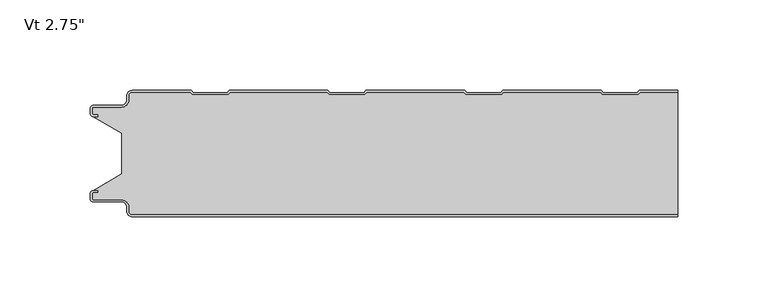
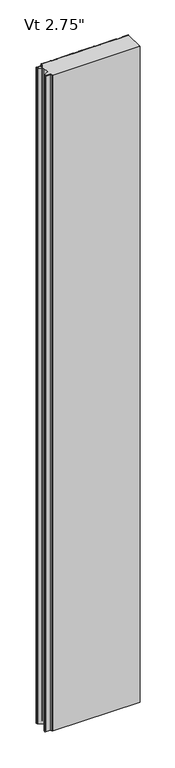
"""IFC4 building model written with IfcOpenShell, lengths in millimetres: plate geometry."""

from ifc_helpers import new_model, si_unit, frame, origin, place, context, project, spatial, polyline, circle_curve, source, transform, mapped, element, save
from ifc_brep_helpers import plane_surface, cylinder_surface, revolved_surface, advanced_brep


def plate_4dfbf4fa(model_context):
    return source(origin(), model_context, "Body", "AdvancedBrep", [
        advanced_brep(
        [(133.0522163, -1.0, 2400.0), (153.7374998, -1.0, 2400.0), (153.7374998, 0.0, 2400.0), (132.6097769, 0.0, 2400.0), (131.5372521, -1.1911595, 2400.0), (112.6391361, -1.1911595, 2400.0), (111.5666112, 0.0, 2400.0), (56.9871567, 0.0, 2400.0), (55.9146318, -1.1911595, 2400.0), (37.0165158, -1.1911595, 2400.0), (35.943991, 0.0, 2400.0), (-18.6354636, 0.0, 2400.0), (-19.7079884, -1.1911595, 2400.0), (-38.6061045, -1.1911595, 2400.0), (-39.6786293, 0.0, 2400.0), (-94.2580838, 0.0, 2400.0), (-95.3306087, -1.1911595, 2400.0), (-114.2287247, -1.1911595, 2400.0), (-115.3012496, 0.0, 2400.0), (-147.9102806, 0.0, 2400.0), (-150.8875472, -2.9772904, 2400.0), (-150.8875472, -5.2691742, 2400.0), (-153.8648158, -8.2464427, 2400.0), (-169.4612418, -8.2464427, 2400.0), (-171.0491183, -9.8343193, 2400.0), (-171.0491183, -12.905868, 2400.0), (-169.4612418, -14.4937445, 2400.0), (-167.1062063, -14.4937445, 2400.0), (-167.1062063, -13.4937445, 2400.0), (-169.4612418, -13.4937445, 2400.0), (-170.0491183, -12.905868, 2400.0), (-170.0491183, -9.8343193, 2400.0), (-169.4612418, -9.2464427, 2400.0), (-153.8648158, -9.2464427, 2400.0), (-149.8875472, -5.2691742, 2400.0), (-149.8875472, -2.9772904, 2400.0), (-147.9102799, -1.0000218, 2400.0), (-115.7436889, -1.0, 2400.0), (-114.671164, -2.1911595, 2400.0), (-94.8881694, -2.1911595, 2400.0), (-93.8156445, -1.0, 2400.0), (-40.1210686, -1.0, 2400.0), (-39.0485438, -2.1911595, 2400.0), (-19.2655491, -2.1911595, 2400.0), (-18.1930243, -1.0, 2400.0), (35.5015516, -1.0, 2400.0), (36.5740765, -2.1911595, 2400.0), (56.3570712, -2.1911595, 2400.0), (57.429596, -1.0, 2400.0), (111.1241719, -1.0, 2400.0), (112.1966967, -2.1911595, 2400.0), (131.9796914, -2.1911595, 2400.0), (132.6097769, 0.0, 0.0), (153.7374998, 0.0, 0.0), (153.7374998, -1.0, 0.0), (133.0522163, -1.0, 0.0), (131.9796914, -2.1911595, 0.0), (112.1966967, -2.1911595, 0.0), (111.1241719, -1.0, 0.0), (57.429596, -1.0, 0.0), (56.3570712, -2.1911595, 0.0), (36.5740765, -2.1911595, 0.0), (35.5015516, -1.0, 0.0), (-18.1930243, -1.0, 0.0), (-19.2655491, -2.1911595, 0.0), (-39.0485438, -2.1911595, 0.0), (-40.1210686, -1.0, 0.0), (-93.8156445, -1.0, 0.0), (-94.8881694, -2.1911595, 0.0), (-114.671164, -2.1911595, 0.0), (-115.7436889, -1.0, 0.0), (-147.9102799, -1.0, 0.0), (-149.8875472, -2.9772904, 0.0), (-149.8875472, -5.2691742, 0.0), (-153.8648158, -9.2464427, 0.0), (-169.4612418, -9.2464427, 0.0), (-170.0491183, -9.8343193, 0.0), (-170.0491183, -12.905868, 0.0), (-169.4612418, -13.4937445, 0.0), (-167.1062063, -13.4937445, 0.0), (-167.1062063, -14.4937445, 0.0), (-169.4612418, -14.4937445, 0.0), (-171.0491183, -12.905868, 0.0), (-171.0491183, -9.8343193, 0.0), (-169.4612418, -8.2464427, 0.0), (-153.8648158, -8.2464427, 0.0), (-150.8875472, -5.2691742, 0.0), (-150.8875472, -2.9772904, 0.0), (-147.9102806, -2.18e-05, 0.0), (-115.3012496, 0.0, 0.0), (-114.2287247, -1.1911595, 0.0), (-95.3306087, -1.1911595, 0.0), (-94.2580838, 0.0, 0.0), (-39.6786293, 0.0, 0.0), (-38.6061045, -1.1911595, 0.0), (-19.7079884, -1.1911595, 0.0), (-18.6354636, 0.0, 0.0), (35.943991, 0.0, 0.0), (37.0165158, -1.1911595, 0.0), (55.9146318, -1.1911595, 0.0), (56.9871567, 0.0, 0.0), (111.5666112, 0.0, 0.0), (112.6391361, -1.1911595, 0.0), (131.5372521, -1.1911595, 0.0)],
        [
            (0, 1),
            (1, 2),
            (2, 3),
            (3, 4),
            (4, 5),
            (5, 6),
            (6, 7),
            (7, 8),
            (8, 9),
            (9, 10),
            (10, 11),
            (11, 12),
            (12, 13),
            (13, 14),
            (14, 15),
            (15, 16),
            (16, 17),
            (17, 18),
            (18, 19),
            (19, 20, circle_curve(frame((-147.9102787, -2.9772904, 2400.0), z_axis=(0.0, 0.0, 1.0), x_axis=(0.0, 1.0, 0.0)), 2.9772685)),
            (20, 21),
            (21, 22, circle_curve(frame((-153.8648158, -5.2691742, 2400.0), z_axis=(0.0, 0.0, -1.0), x_axis=(0.0, 1.0, 0.0)), 2.9772685)),
            (22, 23),
            (23, 24, circle_curve(frame((-169.4612418, -9.8343193, 2400.0), z_axis=(0.0, 0.0, 1.0), x_axis=(0.0, 1.0, 0.0)), 1.5878765)),
            (24, 25),
            (25, 26, circle_curve(frame((-169.4612418, -12.905868, 2400.0), z_axis=(0.0, 0.0, 1.0), x_axis=(0.0, 1.0, 0.0)), 1.5878765)),
            (26, 27),
            (27, 28),
            (28, 29),
            (29, 30, circle_curve(frame((-169.4612418, -12.905868, 2400.0), z_axis=(0.0, 0.0, -1.0), x_axis=(0.0, 1.0, 0.0)), 0.5878765)),
            (30, 31),
            (31, 32, circle_curve(frame((-169.4612418, -9.8343193, 2400.0), z_axis=(0.0, 0.0, -1.0), x_axis=(0.0, 1.0, 0.0)), 0.5878765)),
            (32, 33),
            (33, 34, circle_curve(frame((-153.8648158, -5.2691742, 2400.0), z_axis=(0.0, 0.0, 1.0), x_axis=(0.0, 1.0, 0.0)), 3.9772685)),
            (34, 35),
            (35, 36, circle_curve(frame((-147.9102787, -2.9772904, 2400.0), z_axis=(0.0, 0.0, -1.0), x_axis=(0.0, 1.0, 0.0)), 1.9772685)),
            (36, 37),
            (37, 38),
            (38, 39),
            (39, 40),
            (40, 41),
            (41, 42),
            (42, 43),
            (43, 44),
            (44, 45),
            (45, 46),
            (46, 47),
            (47, 48),
            (48, 49),
            (49, 50),
            (50, 51),
            (51, 0),
            (52, 53),
            (53, 54),
            (54, 55),
            (55, 56),
            (56, 57),
            (57, 58),
            (58, 59),
            (59, 60),
            (60, 61),
            (61, 62),
            (62, 63),
            (63, 64),
            (64, 65),
            (65, 66),
            (66, 67),
            (67, 68),
            (68, 69),
            (69, 70),
            (70, 71),
            (71, 72, circle_curve(frame((-147.9102787, -2.9772904, 0.0), z_axis=(0.0, 0.0, 1.0), x_axis=(0.0, 1.0, 0.0)), 1.9772685)),
            (72, 73),
            (73, 74, circle_curve(frame((-153.8648158, -5.2691742, 0.0), z_axis=(0.0, 0.0, -1.0), x_axis=(0.0, 1.0, 0.0)), 3.9772685)),
            (74, 75),
            (75, 76, circle_curve(frame((-169.4612418, -9.8343193, 0.0), z_axis=(0.0, 0.0, 1.0), x_axis=(0.0, 1.0, 0.0)), 0.5878765)),
            (76, 77),
            (77, 78, circle_curve(frame((-169.4612418, -12.905868, 0.0), z_axis=(0.0, 0.0, 1.0), x_axis=(0.0, 1.0, 0.0)), 0.5878765)),
            (78, 79),
            (79, 80),
            (80, 81),
            (81, 82, circle_curve(frame((-169.4612418, -12.905868, 0.0), z_axis=(0.0, 0.0, -1.0), x_axis=(0.0, 1.0, 0.0)), 1.5878765)),
            (82, 83),
            (83, 84, circle_curve(frame((-169.4612418, -9.8343193, 0.0), z_axis=(0.0, 0.0, -1.0), x_axis=(0.0, 1.0, 0.0)), 1.5878765)),
            (84, 85),
            (85, 86, circle_curve(frame((-153.8648158, -5.2691742, 0.0), z_axis=(0.0, 0.0, 1.0), x_axis=(0.0, 1.0, 0.0)), 2.9772685)),
            (86, 87),
            (87, 88, circle_curve(frame((-147.9102787, -2.9772904, 0.0), z_axis=(0.0, 0.0, -1.0), x_axis=(0.0, 1.0, 0.0)), 2.9772685)),
            (88, 89),
            (89, 90),
            (90, 91),
            (91, 92),
            (92, 93),
            (93, 94),
            (94, 95),
            (95, 96),
            (96, 97),
            (97, 98),
            (98, 99),
            (99, 100),
            (100, 101),
            (101, 102),
            (102, 103),
            (103, 52),
            (54, 1),
            (0, 55),
            (51, 56),
            (50, 57),
            (49, 58),
            (48, 59),
            (47, 60),
            (46, 61),
            (45, 62),
            (44, 63),
            (43, 64),
            (42, 65),
            (41, 66),
            (40, 67),
            (39, 68),
            (38, 69),
            (37, 70),
            (36, 71),
            (35, 72),
            (34, 73),
            (33, 74),
            (32, 75),
            (31, 76),
            (30, 77),
            (29, 78),
            (28, 79),
            (27, 80),
            (26, 81),
            (25, 82),
            (24, 83),
            (23, 84),
            (22, 85),
            (21, 86),
            (20, 87),
            (19, 88),
            (18, 89),
            (17, 90),
            (16, 91),
            (15, 92),
            (14, 93),
            (13, 94),
            (12, 95),
            (11, 96),
            (10, 97),
            (9, 98),
            (8, 99),
            (7, 100),
            (6, 101),
            (5, 102),
            (4, 103),
            (3, 52),
            (2, 53),
        ],
        [
            plane_surface(frame((422.5250002, 0.0, 2400.0), z_axis=(0.0, 0.0, 1.0), x_axis=(0.0, 1.0, 0.0))),
            plane_surface(frame((422.5250002, 0.0, 0.0), z_axis=(0.0, 0.0, -1.0), x_axis=(0.0, 1.0, 0.0))),
            plane_surface(frame((186.7467922, -1.0, 2400.0), z_axis=(0.0, -1.0, 0.0), x_axis=(0.0, 0.0, -1.0))),
            plane_surface(frame((133.0522163, -1.0, 2400.0), z_axis=(0.7431448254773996, -0.6691306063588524, 0.0), x_axis=(0.0, 0.0, -1.0))),
            plane_surface(frame((131.9796914, -2.1911595, 2400.0), z_axis=(0.0, -1.0, 0.0), x_axis=(0.0, 0.0, -1.0))),
            plane_surface(frame((112.1966967, -2.1911595, 2400.0), z_axis=(-0.7431448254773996, -0.6691306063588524, 0.0), x_axis=(0.0, 0.0, -1.0))),
            plane_surface(frame((111.1241719, -1.0, 2400.0), z_axis=(0.0, -1.0, 0.0), x_axis=(0.0, 0.0, -1.0))),
            plane_surface(frame((57.429596, -1.0, 2400.0), z_axis=(0.7431448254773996, -0.6691306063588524, 0.0), x_axis=(0.0, 0.0, -1.0))),
            plane_surface(frame((56.3570712, -2.1911595, 2400.0), z_axis=(0.0, -1.0, 0.0), x_axis=(0.0, 0.0, -1.0))),
            plane_surface(frame((36.5740765, -2.1911595, 2400.0), z_axis=(-0.7431448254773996, -0.6691306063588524, 0.0), x_axis=(0.0, 0.0, -1.0))),
            plane_surface(frame((35.5015516, -1.0, 2400.0), z_axis=(0.0, -1.0, 0.0), x_axis=(0.0, 0.0, -1.0))),
            plane_surface(frame((-18.1930243, -1.0, 2400.0), z_axis=(0.7431448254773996, -0.6691306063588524, 0.0), x_axis=(0.0, 0.0, -1.0))),
            plane_surface(frame((-19.2655491, -2.1911595, 2400.0), z_axis=(0.0, -1.0, 0.0), x_axis=(0.0, 0.0, -1.0))),
            plane_surface(frame((-39.0485438, -2.1911595, 2400.0), z_axis=(-0.7431448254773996, -0.6691306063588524, 0.0), x_axis=(0.0, 0.0, -1.0))),
            plane_surface(frame((-40.1210686, -1.0, 2400.0), z_axis=(0.0, -1.0, 0.0), x_axis=(0.0, 0.0, -1.0))),
            plane_surface(frame((-93.8156445, -1.0, 2400.0), z_axis=(0.7431448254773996, -0.6691306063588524, 0.0), x_axis=(0.0, 0.0, -1.0))),
            plane_surface(frame((-94.8881694, -2.1911595, 2400.0), z_axis=(0.0, -1.0, 0.0), x_axis=(0.0, 0.0, -1.0))),
            plane_surface(frame((-114.671164, -2.1911595, 2400.0), z_axis=(-0.7431448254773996, -0.6691306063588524, 0.0), x_axis=(0.0, 0.0, -1.0))),
            plane_surface(frame((-115.7436889, -1.0, 2400.0), z_axis=(0.0, -1.0, 0.0), x_axis=(0.0, 0.0, -1.0))),
            revolved_surface(polyline([(-147.9102787, -1.0000218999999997, 0.0), (-147.9102787, -1.0000218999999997, 2400.0)]), (-147.9102787, -2.9772904, 2400.0), (0.0, 0.0, -1.0)),
            plane_surface(frame((-149.8875472, -2.9772904, 2400.0), z_axis=(1.0, 0.0, 0.0), x_axis=(0.0, 0.0, -1.0))),
            cylinder_surface(frame((-153.8648158, -5.2691742, 2400.0), z_axis=(0.0, 0.0, 1.0), x_axis=(0.0, 1.0, 0.0)), 3.9772685),
            plane_surface(frame((-153.8648158, -9.2464427, 2400.0), z_axis=(0.0, -1.0, 0.0), x_axis=(0.0, 0.0, -1.0))),
            revolved_surface(polyline([(-169.4612418, -9.2464428, 0.0), (-169.4612418, -9.2464428, 2400.0)]), (-169.4612418, -9.8343193, 2400.0), (0.0, 0.0, -1.0)),
            plane_surface(frame((-170.0491183, -9.8343193, 2400.0), z_axis=(1.0, 0.0, 0.0), x_axis=(0.0, 0.0, -1.0))),
            revolved_surface(polyline([(-169.4612418, -12.3179915, 0.0), (-169.4612418, -12.3179915, 2400.0)]), (-169.4612418, -12.905868, 2400.0), (0.0, 0.0, -1.0)),
            plane_surface(frame((-169.4612418, -13.4937445, 2400.0), z_axis=(0.0, 1.0, 0.0), x_axis=(0.0, 0.0, -1.0))),
            plane_surface(frame((-167.1062063, -13.4937445, 2400.0), z_axis=(1.0, 0.0, 0.0), x_axis=(0.0, 0.0, -1.0))),
            plane_surface(frame((-167.1062063, -14.4937445, 2400.0), z_axis=(0.0, -1.0, 0.0), x_axis=(0.0, 0.0, -1.0))),
            cylinder_surface(frame((-169.4612418, -12.905868, 2400.0), z_axis=(0.0, 0.0, 1.0), x_axis=(0.0, 1.0, 0.0)), 1.5878765),
            plane_surface(frame((-171.0491183, -12.905868, 2400.0), z_axis=(-1.0, 0.0, 0.0), x_axis=(0.0, 0.0, -1.0))),
            cylinder_surface(frame((-169.4612418, -9.8343193, 2400.0), z_axis=(0.0, 0.0, 1.0), x_axis=(0.0, 1.0, 0.0)), 1.5878765),
            plane_surface(frame((-169.4612418, -8.2464427, 2400.0), z_axis=(0.0, 1.0, 0.0), x_axis=(0.0, 0.0, -1.0))),
            revolved_surface(polyline([(-153.8648158, -2.2919057, 0.0), (-153.8648158, -2.2919057, 2400.0)]), (-153.8648158, -5.2691742, 2400.0), (0.0, 0.0, -1.0)),
            plane_surface(frame((-150.8875472, -5.2691742, 2400.0), z_axis=(-1.0, 0.0, 0.0), x_axis=(0.0, 0.0, -1.0))),
            cylinder_surface(frame((-147.9102787, -2.9772904, 2400.0), z_axis=(0.0, 0.0, 1.0), x_axis=(0.0, 1.0, 0.0)), 2.9772685),
            plane_surface(frame((-147.9102806, 0.0, 2400.0), z_axis=(0.0, 1.0, 0.0), x_axis=(0.0, 0.0, -1.0))),
            plane_surface(frame((-115.3012496, 0.0, 2400.0), z_axis=(0.7431448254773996, 0.6691306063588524, 0.0), x_axis=(0.0, 0.0, -1.0))),
            plane_surface(frame((-114.2287247, -1.1911595, 2400.0), z_axis=(0.0, 1.0, 0.0), x_axis=(0.0, 0.0, -1.0))),
            plane_surface(frame((-95.3306087, -1.1911595, 2400.0), z_axis=(-0.7431448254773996, 0.6691306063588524, 0.0), x_axis=(0.0, 0.0, -1.0))),
            plane_surface(frame((-94.2580838, 0.0, 2400.0), z_axis=(0.0, 1.0, 0.0), x_axis=(0.0, 0.0, -1.0))),
            plane_surface(frame((-39.6786293, 0.0, 2400.0), z_axis=(0.7431448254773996, 0.6691306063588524, 0.0), x_axis=(0.0, 0.0, -1.0))),
            plane_surface(frame((-38.6061045, -1.1911595, 2400.0), z_axis=(0.0, 1.0, 0.0), x_axis=(0.0, 0.0, -1.0))),
            plane_surface(frame((-19.7079884, -1.1911595, 2400.0), z_axis=(-0.7431448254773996, 0.6691306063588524, 0.0), x_axis=(0.0, 0.0, -1.0))),
            plane_surface(frame((-18.6354636, 0.0, 2400.0), z_axis=(0.0, 1.0, 0.0), x_axis=(0.0, 0.0, -1.0))),
            plane_surface(frame((35.943991, 0.0, 2400.0), z_axis=(0.7431448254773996, 0.6691306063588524, 0.0), x_axis=(0.0, 0.0, -1.0))),
            plane_surface(frame((37.0165158, -1.1911595, 2400.0), z_axis=(0.0, 1.0, 0.0), x_axis=(0.0, 0.0, -1.0))),
            plane_surface(frame((55.9146318, -1.1911595, 2400.0), z_axis=(-0.7431448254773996, 0.6691306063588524, 0.0), x_axis=(0.0, 0.0, -1.0))),
            plane_surface(frame((56.9871567, 0.0, 2400.0), z_axis=(0.0, 1.0, 0.0), x_axis=(0.0, 0.0, -1.0))),
            plane_surface(frame((111.5666112, 0.0, 2400.0), z_axis=(0.7431448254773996, 0.6691306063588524, 0.0), x_axis=(0.0, 0.0, -1.0))),
            plane_surface(frame((112.6391361, -1.1911595, 2400.0), z_axis=(0.0, 1.0, 0.0), x_axis=(0.0, 0.0, -1.0))),
            plane_surface(frame((131.5372521, -1.1911595, 2400.0), z_axis=(-0.7431448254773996, 0.6691306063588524, 0.0), x_axis=(0.0, 0.0, -1.0))),
            plane_surface(frame((132.6097769, 0.0, 2400.0), z_axis=(0.0, 1.0, 0.0), x_axis=(0.0, 0.0, -1.0))),
            plane_surface(frame((153.7374998, -79.9, 2400.0), z_axis=(1.0, 0.0, 0.0), x_axis=(0.0, 0.0, -1.0))),
        ],
        [
            (0, [[1, 2, 3, 4, 5, 6, 7, 8, 9, 10, 11, 12, 13, 14, 15, 16, 17, 18, 19, 20, 21, 22, 23, 24, 25, 26, 27, 28, 29, 30, 31, 32, 33, 34, 35, 36, 37, 38, 39, 40, 41, 42, 43, 44, 45, 46, 47, 48, 49, 50, 51, 52]]),
            (1, [[53, 54, 55, 56, 57, 58, 59, 60, 61, 62, 63, 64, 65, 66, 67, 68, 69, 70, 71, 72, 73, 74, 75, 76, 77, 78, 79, 80, 81, 82, 83, 84, 85, 86, 87, 88, 89, 90, 91, 92, 93, 94, 95, 96, 97, 98, 99, 100, 101, 102, 103, 104]]),
            (2, [[-55, 105, -1, 106]]),
            (3, [[107, -56, -106, -52]]),
            (4, [[108, -57, -107, -51]]),
            (5, [[109, -58, -108, -50]]),
            (6, [[110, -59, -109, -49]]),
            (7, [[111, -60, -110, -48]]),
            (8, [[112, -61, -111, -47]]),
            (9, [[113, -62, -112, -46]]),
            (10, [[114, -63, -113, -45]]),
            (11, [[115, -64, -114, -44]]),
            (12, [[116, -65, -115, -43]]),
            (13, [[117, -66, -116, -42]]),
            (14, [[118, -67, -117, -41]]),
            (15, [[119, -68, -118, -40]]),
            (16, [[120, -69, -119, -39]]),
            (17, [[121, -70, -120, -38]]),
            (18, [[122, -71, -121, -37]]),
            (19, [[123, -72, -122, -36]]),
            (20, [[124, -73, -123, -35]]),
            (21, [[125, -74, -124, -34]]),
            (22, [[126, -75, -125, -33]]),
            (23, [[127, -76, -126, -32]]),
            (24, [[128, -77, -127, -31]]),
            (25, [[129, -78, -128, -30]]),
            (26, [[130, -79, -129, -29]]),
            (27, [[131, -80, -130, -28]]),
            (28, [[132, -81, -131, -27]]),
            (29, [[133, -82, -132, -26]]),
            (30, [[134, -83, -133, -25]]),
            (31, [[135, -84, -134, -24]]),
            (32, [[136, -85, -135, -23]]),
            (33, [[137, -86, -136, -22]]),
            (34, [[138, -87, -137, -21]]),
            (35, [[139, -88, -138, -20]]),
            (36, [[140, -89, -139, -19]]),
            (37, [[141, -90, -140, -18]]),
            (38, [[142, -91, -141, -17]]),
            (39, [[143, -92, -142, -16]]),
            (40, [[144, -93, -143, -15]]),
            (41, [[145, -94, -144, -14]]),
            (42, [[146, -95, -145, -13]]),
            (43, [[147, -96, -146, -12]]),
            (44, [[148, -97, -147, -11]]),
            (45, [[149, -98, -148, -10]]),
            (46, [[150, -99, -149, -9]]),
            (47, [[151, -100, -150, -8]]),
            (48, [[152, -101, -151, -7]]),
            (49, [[153, -102, -152, -6]]),
            (50, [[154, -103, -153, -5]]),
            (51, [[155, -104, -154, -4]]),
            (52, [[-3, 156, -53, -155]]),
            (53, [[-105, -54, -156, -2]]),
        ],
    ),
        advanced_brep(
        [(-149.8873936, -66.9223811, 2400.0), (-149.8873936, -64.6308685, 2400.0), (-153.864739, -60.6535232, 2400.0), (-169.4612512, -60.6535232, 2400.0), (-170.0491084, -60.065666, 2400.0), (-170.0491084, -56.9941346, 2400.0), (-169.4612373, -56.4062635, 2400.0), (-167.1062063, -56.4062635, 2400.0), (-167.1062063, -55.4062599, 2400.0), (-169.4612418, -55.4062599, 2400.0), (-171.0491183, -56.9941364, 2400.0), (-171.0491183, -60.0656851, 2400.0), (-169.4612418, -61.6535616, 2400.0), (-153.8648158, -61.6535616, 2400.0), (-150.8875472, -64.6308302, 2400.0), (-150.8875472, -66.922714, 2400.0), (-147.9102787, -69.8999825, 2400.0), (153.7374998, -69.9, 2400.0), (153.7374998, -68.8992912, 2400.0), (-147.9104835, -68.8992912, 2400.0), (-149.8873936, -66.9223811, 0.0), (-147.9104835, -68.8992912, 0.0), (153.7374998, -68.8992912, 0.0), (153.7374998, -69.9, 0.0), (-147.9102787, -69.9, 0.0), (-150.8875472, -66.922714, 0.0), (-150.8875472, -64.6308302, 0.0), (-153.8648158, -61.6535616, 0.0), (-169.4612418, -61.6535616, 0.0), (-171.0491183, -60.0656851, 0.0), (-171.0491183, -56.9941364, 0.0), (-169.4612418, -55.4062599, 0.0), (-167.1062063, -55.4062599, 0.0), (-167.1062063, -56.4062635, 0.0), (-169.4612373, -56.4062635, 0.0), (-170.0491084, -56.9941346, 0.0), (-170.0491084, -60.065666, 0.0), (-169.4612512, -60.6535232, 0.0), (-153.864739, -60.6535232, 0.0), (-149.8873936, -64.6308685, 0.0)],
        [
            (0, 1),
            (1, 2, circle_curve(frame((-153.864739, -64.6308685, 2400.0), z_axis=(0.0, 0.0, 1.0), x_axis=(-1.0, 0.0, 0.0)), 3.9773454)),
            (2, 3),
            (3, 4, circle_curve(frame((-169.4612512, -60.065666, 2400.0), z_axis=(0.0, 0.0, -1.0), x_axis=(-1.0, 0.0, 0.0)), 0.5878572)),
            (4, 5),
            (5, 6, circle_curve(frame((-169.4612373, -56.9941346, 2400.0), z_axis=(0.0, 0.0, -1.0), x_axis=(-1.0, 0.0, 0.0)), 0.5878711)),
            (6, 7),
            (7, 8),
            (8, 9),
            (9, 10, circle_curve(frame((-169.4612418, -56.9941364, 2400.0), z_axis=(0.0, 0.0, 1.0), x_axis=(-1.0, 0.0, 0.0)), 1.5878765)),
            (10, 11),
            (11, 12, circle_curve(frame((-169.4612418, -60.0656851, 2400.0), z_axis=(0.0, 0.0, 1.0), x_axis=(-1.0, 0.0, 0.0)), 1.5878765)),
            (12, 13),
            (13, 14, circle_curve(frame((-153.8648158, -64.6308302, 2400.0), z_axis=(0.0, 0.0, -1.0), x_axis=(-1.0, 0.0, 0.0)), 2.9772685)),
            (14, 15),
            (15, 16, circle_curve(frame((-147.9102787, -66.922714, 2400.0), z_axis=(0.0, 0.0, 1.0), x_axis=(-1.0, 0.0, 0.0)), 2.9772685)),
            (16, 17),
            (17, 18),
            (18, 19),
            (19, 0, circle_curve(frame((-147.9104835, -66.9223811, 2400.0), z_axis=(0.0, 0.0, -1.0), x_axis=(-1.0, 0.0, 0.0)), 1.9769101)),
            (20, 21, circle_curve(frame((-147.9104835, -66.9223811, 0.0), z_axis=(0.0, 0.0, 1.0), x_axis=(-1.0, 0.0, 0.0)), 1.9769101)),
            (21, 22),
            (22, 23),
            (23, 24),
            (24, 25, circle_curve(frame((-147.9102787, -66.922714, 0.0), z_axis=(0.0, 0.0, -1.0), x_axis=(-1.0, 0.0, 0.0)), 2.9772685)),
            (25, 26),
            (26, 27, circle_curve(frame((-153.8648158, -64.6308302, 0.0), z_axis=(0.0, 0.0, 1.0), x_axis=(-1.0, 0.0, 0.0)), 2.9772685)),
            (27, 28),
            (28, 29, circle_curve(frame((-169.4612418, -60.0656851, 0.0), z_axis=(0.0, 0.0, -1.0), x_axis=(-1.0, 0.0, 0.0)), 1.5878765)),
            (29, 30),
            (30, 31, circle_curve(frame((-169.4612418, -56.9941364, 0.0), z_axis=(0.0, 0.0, -1.0), x_axis=(-1.0, 0.0, 0.0)), 1.5878765)),
            (31, 32),
            (32, 33),
            (33, 34),
            (34, 35, circle_curve(frame((-169.4612373, -56.9941346, 0.0), z_axis=(0.0, 0.0, 1.0), x_axis=(-1.0, 0.0, 0.0)), 0.5878711)),
            (35, 36),
            (36, 37, circle_curve(frame((-169.4612512, -60.065666, 0.0), z_axis=(0.0, 0.0, 1.0), x_axis=(-1.0, 0.0, 0.0)), 0.5878572)),
            (37, 38),
            (38, 39, circle_curve(frame((-153.864739, -64.6308685, 0.0), z_axis=(0.0, 0.0, -1.0), x_axis=(-1.0, 0.0, 0.0)), 3.9773454)),
            (39, 20),
            (17, 23),
            (22, 18),
            (16, 24),
            (21, 19),
            (20, 0),
            (39, 1),
            (38, 2),
            (37, 3),
            (4, 36),
            (35, 5),
            (34, 6),
            (33, 7),
            (32, 8),
            (31, 9),
            (30, 10),
            (29, 11),
            (28, 12),
            (27, 13),
            (26, 14),
            (25, 15),
        ],
        [
            plane_surface(frame((422.5250002, -69.9, 2400.0), z_axis=(0.0, 0.0, 1.0), x_axis=(0.0, -1.0, 0.0))),
            plane_surface(frame((422.5250002, -69.9, 0.0), z_axis=(0.0, 0.0, -1.0), x_axis=(0.0, -1.0, 0.0))),
            plane_surface(frame((153.7374998, -79.9, 2400.0), z_axis=(1.0, 0.0, 0.0), x_axis=(0.0, 0.0, -1.0))),
            plane_surface(frame((997.0725653, -69.9, 2400.0), z_axis=(0.0, -1.0, 0.0), x_axis=(0.0, 0.0, -1.0))),
            plane_surface(frame((-147.9104835, -68.8992912, 2400.0), z_axis=(0.0, 1.0, 0.0), x_axis=(0.0, 0.0, -1.0))),
            revolved_surface(polyline([(-149.8873936, -66.9223811, 0.0), (-149.8873936, -66.9223811, 2400.0)]), (-147.9104835, -66.9223811, 2400.0), (0.0, 0.0, -1.0)),
            plane_surface(frame((-149.8873936, -64.6308685, 2400.0), z_axis=(1.0, 0.0, 0.0), x_axis=(0.0, 0.0, -1.0))),
            cylinder_surface(frame((-153.864739, -64.6308685, 2400.0), z_axis=(0.0, 0.0, 1.0), x_axis=(-1.0, 0.0, 0.0)), 3.9773454),
            plane_surface(frame((-169.4612512, -60.6535232, 2400.0), z_axis=(0.0, 1.0, 0.0), x_axis=(0.0, 0.0, -1.0))),
            plane_surface(frame((-170.0491084, -56.9941346, 2400.0), z_axis=(1.0, 0.0, 0.0), x_axis=(0.0, 0.0, -1.0))),
            revolved_surface(polyline([(-170.0491084, -56.9941346, 0.0), (-170.0491084, -56.9941346, 2400.0)]), (-169.4612373, -56.9941346, 2400.0), (0.0, 0.0, -1.0)),
            plane_surface(frame((-167.1062063, -56.4062635, 2400.0), z_axis=(0.0, -1.0, 0.0), x_axis=(0.0, 0.0, -1.0))),
            plane_surface(frame((-167.1062063, -55.4062599, 2400.0), z_axis=(1.0, 0.0, 0.0), x_axis=(0.0, 0.0, -1.0))),
            plane_surface(frame((-169.4612418, -55.4062599, 2400.0), z_axis=(0.0, 1.0, 0.0), x_axis=(0.0, 0.0, -1.0))),
            cylinder_surface(frame((-169.4612418, -56.9941364, 2400.0), z_axis=(0.0, 0.0, 1.0), x_axis=(-1.0, 0.0, 0.0)), 1.5878765),
            plane_surface(frame((-171.0491183, -60.0656851, 2400.0), z_axis=(-1.0, 0.0, 0.0), x_axis=(0.0, 0.0, -1.0))),
            cylinder_surface(frame((-169.4612418, -60.0656851, 2400.0), z_axis=(0.0, 0.0, 1.0), x_axis=(-1.0, 0.0, 0.0)), 1.5878765),
            plane_surface(frame((-153.8648158, -61.6535616, 2400.0), z_axis=(0.0, -1.0, 0.0), x_axis=(0.0, 0.0, -1.0))),
            revolved_surface(polyline([(-156.8420843, -64.6308302, 0.0), (-156.8420843, -64.6308302, 2400.0)]), (-153.8648158, -64.6308302, 2400.0), (0.0, 0.0, -1.0)),
            plane_surface(frame((-150.8875472, -66.922714, 2400.0), z_axis=(-1.0, 0.0, 0.0), x_axis=(0.0, 0.0, -1.0))),
            cylinder_surface(frame((-147.9102787, -66.922714, 2400.0), z_axis=(0.0, 0.0, 1.0), x_axis=(-1.0, 0.0, 0.0)), 2.9772685),
            revolved_surface(polyline([(-170.0491084, -60.065666, 0.0), (-170.0491084, -60.065666, 2400.0)]), (-169.4612512, -60.065666, 2400.0), (0.0, 0.0, -1.0)),
        ],
        [
            (0, [[1, 2, 3, 4, 5, 6, 7, 8, 9, 10, 11, 12, 13, 14, 15, 16, 17, 18, 19, 20]]),
            (1, [[21, 22, 23, 24, 25, 26, 27, 28, 29, 30, 31, 32, 33, 34, 35, 36, 37, 38, 39, 40]]),
            (2, [[41, -23, 42, -18]]),
            (3, [[-24, -41, -17, 43]]),
            (4, [[-19, -42, -22, 44]]),
            (5, [[-44, -21, 45, -20]]),
            (6, [[-45, -40, 46, -1]]),
            (7, [[-46, -39, 47, -2]]),
            (8, [[-47, -38, 48, -3]]),
            (9, [[49, -36, 50, -5]]),
            (10, [[-50, -35, 51, -6]]),
            (11, [[-51, -34, 52, -7]]),
            (12, [[-52, -33, 53, -8]]),
            (13, [[-53, -32, 54, -9]]),
            (14, [[-54, -31, 55, -10]]),
            (15, [[-55, -30, 56, -11]]),
            (16, [[-56, -29, 57, -12]]),
            (17, [[-57, -28, 58, -13]]),
            (18, [[-58, -27, 59, -14]]),
            (19, [[-59, -26, 60, -15]]),
            (20, [[-60, -25, -43, -16]]),
            (21, [[-48, -37, -49, -4]]),
        ],
    ),
        advanced_brep(
        [(-149.88755, -66.9227194, 2400.0), (-147.910276, -68.8999935, 2400.0), (153.7374998, -68.9, 2400.0), (153.7374998, -1.0, 2400.0), (133.0522163, -1.0, 2400.0), (131.9796914, -2.1911595, 2400.0), (112.1966967, -2.1911595, 2400.0), (111.1241719, -1.0, 2400.0), (57.429596, -1.0, 2400.0), (56.3570712, -2.1911595, 2400.0), (36.5740765, -2.1911595, 2400.0), (35.5015516, -1.0, 2400.0), (-18.1930243, -1.0, 2400.0), (-19.2655491, -2.1911595, 2400.0), (-39.0485438, -2.1911595, 2400.0), (-40.1210686, -1.0, 2400.0), (-93.8156445, -1.0, 2400.0), (-94.8881694, -2.1911595, 2400.0), (-114.671164, -2.1911595, 2400.0), (-115.7436889, -1.0000109, 2400.0), (-147.910276, -1.0000109, 2400.0), (-149.88755, -2.9772849, 2400.0), (-149.88755, -5.2691749, 2400.0), (-153.8648171, -9.246442, 2400.0), (-169.4612416, -9.246442, 2400.0), (-170.0491185, -9.8343189, 2400.0), (-170.0491185, -12.9058679, 2400.0), (-169.4612418, -13.4937446, 2400.0), (-167.1062063, -13.4937446, 2400.0), (-167.1062063, -14.4937446, 2400.0), (-169.395785, -14.4937446, 2400.0), (-153.7374998, -23.7509179, 2400.0), (-153.7374998, -46.1490865, 2400.0), (-169.395785, -55.4062598, 2400.0), (-167.1062063, -55.4062598, 2400.0), (-167.1062063, -56.4062598, 2400.0), (-169.4612418, -56.4062598, 2400.0), (-170.0491185, -56.9941365, 2400.0), (-170.0491185, -60.0656854, 2400.0), (-169.4612416, -60.6535623, 2400.0), (-153.8648171, -60.6535623, 2400.0), (-149.88755, -64.6308295, 2400.0), (-149.88755, -66.9227194, 0.0), (-149.88755, -64.6308295, 0.0), (-153.8648171, -60.6535623, 0.0), (-169.4612416, -60.6535623, 0.0), (-170.0491185, -60.0656854, 0.0), (-170.0491185, -56.9941365, 0.0), (-169.4612418, -56.4062598, 0.0), (-167.1062063, -56.4062598, 0.0), (-167.1062063, -55.4062598, 0.0), (-169.395785, -55.4062598, 0.0), (-153.7374998, -46.1490865, 0.0), (-153.7374998, -23.7509179, 0.0), (-169.395785, -14.4937446, 0.0), (-167.1062063, -14.4937446, 0.0), (-167.1062063, -13.4937446, 0.0), (-169.4612418, -13.4937446, 0.0), (-170.0491185, -12.9058679, 0.0), (-170.0491185, -9.8343189, 0.0), (-169.4612416, -9.246442, 0.0), (-153.8648171, -9.246442, 0.0), (-149.88755, -5.2691749, 0.0), (-149.88755, -2.9772849, 0.0), (-147.910276, -1.0000109, 0.0), (-115.7436889, -1.0000109, 0.0), (-114.671164, -2.1911595, 0.0), (-94.8881694, -2.1911595, 0.0), (-93.8156445, -1.0, 0.0), (-40.1210686, -1.0, 0.0), (-39.0485438, -2.1911595, 0.0), (-19.2655491, -2.1911595, 0.0), (-18.1930243, -1.0, 0.0), (35.5015516, -1.0, 0.0), (36.5740765, -2.1911595, 0.0), (56.3570712, -2.1911595, 0.0), (57.429596, -1.0, 0.0), (111.1241719, -1.0, 0.0), (112.1966967, -2.1911595, 0.0), (131.9796914, -2.1911595, 0.0), (133.0522163, -1.0, 0.0), (153.7374998, -1.0, 0.0), (153.7374998, -68.9, 0.0), (-147.910276, -68.9, 0.0)],
        [
            (0, 1, circle_curve(frame((-147.910276, -66.9227194, 2400.0), z_axis=(0.0, 0.0, 1.0), x_axis=(-1.0, 0.0, 0.0)), 1.977274)),
            (1, 2),
            (2, 3),
            (3, 4),
            (4, 5),
            (5, 6),
            (6, 7),
            (7, 8),
            (8, 9),
            (9, 10),
            (10, 11),
            (11, 12),
            (12, 13),
            (13, 14),
            (14, 15),
            (15, 16),
            (16, 17),
            (17, 18),
            (18, 19),
            (19, 20),
            (20, 21, circle_curve(frame((-147.910276, -2.9772849, 2400.0), z_axis=(0.0, 0.0, 1.0), x_axis=(0.0, 1.0, 0.0)), 1.977274)),
            (21, 22),
            (22, 23, circle_curve(frame((-153.8648171, -5.2691749, 2400.0), z_axis=(0.0, 0.0, -1.0), x_axis=(0.0, 1.0, 0.0)), 3.9772671)),
            (23, 24),
            (24, 25, circle_curve(frame((-169.4612416, -9.8343189, 2400.0), z_axis=(0.0, 0.0, 1.0), x_axis=(0.0, 1.0, 0.0)), 0.5878769)),
            (25, 26),
            (26, 27, circle_curve(frame((-169.4612418, -12.9058679, 2400.0), z_axis=(0.0, 0.0, 1.0), x_axis=(0.0, 1.0, 0.0)), 0.5878766)),
            (27, 28),
            (28, 29),
            (29, 30),
            (30, 31),
            (31, 32),
            (32, 33),
            (33, 34),
            (34, 35),
            (35, 36),
            (36, 37, circle_curve(frame((-169.4612418, -56.9941365, 2400.0), z_axis=(0.0, 0.0, 1.0), x_axis=(-1.0, 0.0, 0.0)), 0.5878766)),
            (37, 38),
            (38, 39, circle_curve(frame((-169.4612416, -60.0656854, 2400.0), z_axis=(0.0, 0.0, 1.0), x_axis=(-1.0, 0.0, 0.0)), 0.5878769)),
            (39, 40),
            (40, 41, circle_curve(frame((-153.8648171, -64.6308295, 2400.0), z_axis=(0.0, 0.0, -1.0), x_axis=(-1.0, 0.0, 0.0)), 3.9772671)),
            (41, 0),
            (42, 43),
            (43, 44, circle_curve(frame((-153.8648171, -64.6308295, 0.0), z_axis=(0.0, 0.0, 1.0), x_axis=(-1.0, 0.0, 0.0)), 3.9772671)),
            (44, 45),
            (45, 46, circle_curve(frame((-169.4612416, -60.0656854, 0.0), z_axis=(0.0, 0.0, -1.0), x_axis=(-1.0, 0.0, 0.0)), 0.5878769)),
            (46, 47),
            (47, 48, circle_curve(frame((-169.4612418, -56.9941365, 0.0), z_axis=(0.0, 0.0, -1.0), x_axis=(-1.0, 0.0, 0.0)), 0.5878766)),
            (48, 49),
            (49, 50),
            (50, 51),
            (51, 52),
            (52, 53),
            (53, 54),
            (54, 55),
            (55, 56),
            (56, 57),
            (57, 58, circle_curve(frame((-169.4612418, -12.9058679, 0.0), z_axis=(0.0, 0.0, -1.0), x_axis=(0.0, 1.0, 0.0)), 0.5878766)),
            (58, 59),
            (59, 60, circle_curve(frame((-169.4612416, -9.8343189, 0.0), z_axis=(0.0, 0.0, -1.0), x_axis=(0.0, 1.0, 0.0)), 0.5878769)),
            (60, 61),
            (61, 62, circle_curve(frame((-153.8648171, -5.2691749, 0.0), z_axis=(0.0, 0.0, 1.0), x_axis=(0.0, 1.0, 0.0)), 3.9772671)),
            (62, 63),
            (63, 64, circle_curve(frame((-147.910276, -2.9772849, 0.0), z_axis=(0.0, 0.0, -1.0), x_axis=(0.0, 1.0, 0.0)), 1.977274)),
            (64, 65),
            (65, 66),
            (66, 67),
            (67, 68),
            (68, 69),
            (69, 70),
            (70, 71),
            (71, 72),
            (72, 73),
            (73, 74),
            (74, 75),
            (75, 76),
            (76, 77),
            (77, 78),
            (78, 79),
            (79, 80),
            (80, 81),
            (81, 82),
            (82, 83),
            (83, 42, circle_curve(frame((-147.910276, -66.9227194, 0.0), z_axis=(0.0, 0.0, -1.0), x_axis=(-1.0, 0.0, 0.0)), 1.977274)),
            (31, 53),
            (52, 32),
            (30, 54),
            (29, 55),
            (28, 56),
            (27, 57),
            (26, 58),
            (25, 59),
            (24, 60),
            (23, 61),
            (22, 62),
            (21, 63),
            (20, 64),
            (19, 65),
            (18, 66),
            (17, 67),
            (16, 68),
            (15, 69),
            (14, 70),
            (13, 71),
            (12, 72),
            (11, 73),
            (10, 74),
            (9, 75),
            (8, 76),
            (7, 77),
            (6, 78),
            (5, 79),
            (4, 80),
            (3, 81),
            (2, 82),
            (41, 43),
            (42, 0),
            (40, 44),
            (39, 45),
            (38, 46),
            (37, 47),
            (36, 48),
            (35, 49),
            (34, 50),
            (33, 51),
            (1, 83),
        ],
        [
            plane_surface(frame((422.5250002, -68.9, 2400.0), z_axis=(0.0, 0.0, 1.0), x_axis=(0.0, -1.0, 0.0))),
            plane_surface(frame((422.5250002, -68.9, 0.0), z_axis=(0.0, 0.0, -1.0), x_axis=(0.0, -1.0, 0.0))),
            plane_surface(frame((-153.7374998, -46.1490865, 2400.0), z_axis=(-1.0, 0.0, 0.0), x_axis=(0.0, 0.0, -1.0))),
            plane_surface(frame((-153.7374998, -23.7509179, 2400.0), z_axis=(-0.5089147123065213, -0.860816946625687, 0.0), x_axis=(0.0, 0.0, -1.0))),
            plane_surface(frame((-169.395785, -14.4937446, 2400.0), z_axis=(0.0, 1.0, 0.0), x_axis=(0.0, 0.0, -1.0))),
            plane_surface(frame((-167.1062063, -14.4937446, 2400.0), z_axis=(-1.0, 0.0, 0.0), x_axis=(0.0, 0.0, -1.0))),
            plane_surface(frame((-167.1062063, -13.4937446, 2400.0), z_axis=(0.0, -1.0, 0.0), x_axis=(0.0, 0.0, -1.0))),
            cylinder_surface(frame((-169.4612418, -12.9058679, 2400.0), z_axis=(0.0, 0.0, 1.0), x_axis=(0.0, 1.0, 0.0)), 0.5878766),
            plane_surface(frame((-170.0491185, -12.9058679, 2400.0), z_axis=(-1.0, 0.0, 0.0), x_axis=(0.0, 0.0, -1.0))),
            cylinder_surface(frame((-169.4612416, -9.8343189, 2400.0), z_axis=(0.0, 0.0, 1.0), x_axis=(0.0, 1.0, 0.0)), 0.5878769),
            plane_surface(frame((-169.4612416, -9.246442, 2400.0), z_axis=(0.0, 1.0, 0.0), x_axis=(0.0, 0.0, -1.0))),
            revolved_surface(polyline([(-153.8648171, -1.2919078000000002, 0.0), (-153.8648171, -1.2919078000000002, 2400.0)]), (-153.8648171, -5.2691749, 2400.0), (0.0, 0.0, -1.0)),
            plane_surface(frame((-149.88755, -5.2691749, 2400.0), z_axis=(-1.0, 0.0, 0.0), x_axis=(0.0, 0.0, -1.0))),
            cylinder_surface(frame((-147.910276, -2.9772849, 2400.0), z_axis=(0.0, 0.0, 1.0), x_axis=(0.0, 1.0, 0.0)), 1.977274),
            plane_surface(frame((-147.910276, -1.0000109, 2400.0), z_axis=(0.0, 1.0, 0.0), x_axis=(0.0, 0.0, -1.0))),
            plane_surface(frame((-115.7436889, -1.0000109, 2400.0), z_axis=(0.7431417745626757, 0.669133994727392, 0.0), x_axis=(0.0, 0.0, -1.0))),
            plane_surface(frame((-114.671164, -2.1911595, 2400.0), z_axis=(0.0, 1.0, 0.0), x_axis=(0.0, 0.0, -1.0))),
            plane_surface(frame((-94.8881694, -2.1911595, 2400.0), z_axis=(-0.7431448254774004, 0.6691306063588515, 0.0), x_axis=(0.0, 0.0, -1.0))),
            plane_surface(frame((-93.8156445, -1.0, 2400.0), z_axis=(0.0, 1.0, 0.0), x_axis=(0.0, 0.0, -1.0))),
            plane_surface(frame((-40.1210686, -1.0, 2400.0), z_axis=(0.7431448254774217, 0.6691306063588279, 0.0), x_axis=(0.0, 0.0, -1.0))),
            plane_surface(frame((-39.0485438, -2.1911595, 2400.0), z_axis=(0.0, 1.0, 0.0), x_axis=(0.0, 0.0, -1.0))),
            plane_surface(frame((-19.2655491, -2.1911595, 2400.0), z_axis=(-0.7431448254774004, 0.6691306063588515, 0.0), x_axis=(0.0, 0.0, -1.0))),
            plane_surface(frame((-18.1930243, -1.0, 2400.0), z_axis=(0.0, 1.0, 0.0), x_axis=(0.0, 0.0, -1.0))),
            plane_surface(frame((35.5015516, -1.0, 2400.0), z_axis=(0.7431448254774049, 0.6691306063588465, 0.0), x_axis=(0.0, 0.0, -1.0))),
            plane_surface(frame((36.5740765, -2.1911595, 2400.0), z_axis=(0.0, 1.0, 0.0), x_axis=(0.0, 0.0, -1.0))),
            plane_surface(frame((56.3570712, -2.1911595, 2400.0), z_axis=(-0.7431448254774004, 0.6691306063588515, 0.0), x_axis=(0.0, 0.0, -1.0))),
            plane_surface(frame((57.429596, -1.0, 2400.0), z_axis=(0.0, 1.0, 0.0), x_axis=(0.0, 0.0, -1.0))),
            plane_surface(frame((111.1241719, -1.0, 2400.0), z_axis=(0.7431448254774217, 0.6691306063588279, 0.0), x_axis=(0.0, 0.0, -1.0))),
            plane_surface(frame((112.1966967, -2.1911595, 2400.0), z_axis=(0.0, 1.0, 0.0), x_axis=(0.0, 0.0, -1.0))),
            plane_surface(frame((131.9796914, -2.1911595, 2400.0), z_axis=(-0.7431448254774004, 0.6691306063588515, 0.0), x_axis=(0.0, 0.0, -1.0))),
            plane_surface(frame((133.0522163, -1.0, 2400.0), z_axis=(0.0, 1.0, 0.0), x_axis=(0.0, 0.0, -1.0))),
            plane_surface(frame((153.7374998, -79.9, 2400.0), z_axis=(1.0, 0.0, 0.0), x_axis=(0.0, 0.0, -1.0))),
            plane_surface(frame((-149.88755, -66.9227194, 2400.0), z_axis=(-1.0, 0.0, 0.0), x_axis=(0.0, 0.0, -1.0))),
            revolved_surface(polyline([(-157.84208420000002, -64.6308295, 0.0), (-157.84208420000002, -64.6308295, 2400.0)]), (-153.8648171, -64.6308295, 2400.0), (0.0, 0.0, -1.0)),
            plane_surface(frame((-153.8648171, -60.6535623, 2400.0), z_axis=(0.0, -1.0, 0.0), x_axis=(0.0, 0.0, -1.0))),
            cylinder_surface(frame((-169.4612416, -60.0656854, 2400.0), z_axis=(0.0, 0.0, 1.0), x_axis=(-1.0, 0.0, 0.0)), 0.5878769),
            plane_surface(frame((-170.0491185, -60.0656854, 2400.0), z_axis=(-1.0, 0.0, 0.0), x_axis=(0.0, 0.0, -1.0))),
            cylinder_surface(frame((-169.4612418, -56.9941365, 2400.0), z_axis=(0.0, 0.0, 1.0), x_axis=(-1.0, 0.0, 0.0)), 0.5878766),
            plane_surface(frame((-169.4612418, -56.4062598, 2400.0), z_axis=(0.0, 1.0, 0.0), x_axis=(0.0, 0.0, -1.0))),
            plane_surface(frame((-167.1062063, -56.4062598, 2400.0), z_axis=(-1.0, 0.0, 0.0), x_axis=(0.0, 0.0, -1.0))),
            plane_surface(frame((-167.1062063, -55.4062598, 2400.0), z_axis=(0.0, -1.0, 0.0), x_axis=(0.0, 0.0, -1.0))),
            plane_surface(frame((-169.395785, -55.4062598, 2400.0), z_axis=(-0.5089147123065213, 0.860816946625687, 0.0), x_axis=(0.0, 0.0, -1.0))),
            plane_surface(frame((997.0725653, -68.9, 2400.0), z_axis=(0.0, -1.0, 0.0), x_axis=(0.0, 0.0, -1.0))),
            cylinder_surface(frame((-147.910276, -66.9227194, 2400.0), z_axis=(0.0, 0.0, 1.0), x_axis=(-1.0, 0.0, 0.0)), 1.977274),
        ],
        [
            (0, [[1, 2, 3, 4, 5, 6, 7, 8, 9, 10, 11, 12, 13, 14, 15, 16, 17, 18, 19, 20, 21, 22, 23, 24, 25, 26, 27, 28, 29, 30, 31, 32, 33, 34, 35, 36, 37, 38, 39, 40, 41, 42]]),
            (1, [[43, 44, 45, 46, 47, 48, 49, 50, 51, 52, 53, 54, 55, 56, 57, 58, 59, 60, 61, 62, 63, 64, 65, 66, 67, 68, 69, 70, 71, 72, 73, 74, 75, 76, 77, 78, 79, 80, 81, 82, 83, 84]]),
            (2, [[85, -53, 86, -32]]),
            (3, [[87, -54, -85, -31]]),
            (4, [[88, -55, -87, -30]]),
            (5, [[89, -56, -88, -29]]),
            (6, [[90, -57, -89, -28]]),
            (7, [[91, -58, -90, -27]]),
            (8, [[92, -59, -91, -26]]),
            (9, [[93, -60, -92, -25]]),
            (10, [[94, -61, -93, -24]]),
            (11, [[95, -62, -94, -23]]),
            (12, [[96, -63, -95, -22]]),
            (13, [[97, -64, -96, -21]]),
            (14, [[98, -65, -97, -20]]),
            (15, [[99, -66, -98, -19]]),
            (16, [[100, -67, -99, -18]]),
            (17, [[101, -68, -100, -17]]),
            (18, [[102, -69, -101, -16]]),
            (19, [[103, -70, -102, -15]]),
            (20, [[104, -71, -103, -14]]),
            (21, [[105, -72, -104, -13]]),
            (22, [[106, -73, -105, -12]]),
            (23, [[107, -74, -106, -11]]),
            (24, [[108, -75, -107, -10]]),
            (25, [[109, -76, -108, -9]]),
            (26, [[110, -77, -109, -8]]),
            (27, [[111, -78, -110, -7]]),
            (28, [[112, -79, -111, -6]]),
            (29, [[113, -80, -112, -5]]),
            (30, [[-4, 114, -81, -113]]),
            (31, [[115, -82, -114, -3]]),
            (32, [[116, -43, 117, -42]]),
            (33, [[118, -44, -116, -41]]),
            (34, [[119, -45, -118, -40]]),
            (35, [[120, -46, -119, -39]]),
            (36, [[121, -47, -120, -38]]),
            (37, [[122, -48, -121, -37]]),
            (38, [[123, -49, -122, -36]]),
            (39, [[124, -50, -123, -35]]),
            (40, [[125, -51, -124, -34]]),
            (41, [[-86, -52, -125, -33]]),
            (42, [[-83, -115, -2, 126]]),
            (43, [[-117, -84, -126, -1]]),
        ],
    ),
    ])


if __name__ == "__main__":
    model = new_model("IFC4")
    model_context = context("Model", 3, world=origin())
    ifc_project = project(units=[si_unit("LENGTHUNIT", "METRE", prefix="MILLI")], contexts=[model_context])
    site = spatial("IfcSite", under=ifc_project)
    building = spatial("IfcBuilding", under=site)
    placement = place(None, origin())
    plate_shape = plate_4dfbf4fa(model_context)
    element("IfcPlate", 1, ObjectType="KIP-SLI-FLI-R19-CP-Vt-FL_SL : Vt 2.75\"", at=placement, inside=building, context=model_context, shape_type="MappedRepresentation", body=[
        mapped(plate_shape, transform((0.0, 0.0, 0.0), x_axis=(1.0, 0.0, 0.0), y_axis=(0.0, 1.0, 0.0), z_axis=(0.0, 0.0, 1.0))),
    ])
    save(model, "model.ifc")
